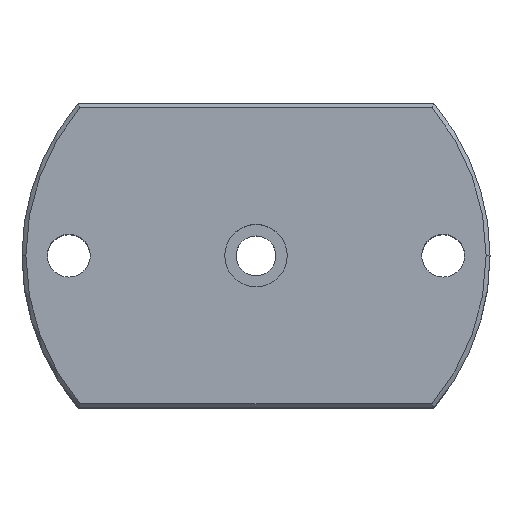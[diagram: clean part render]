
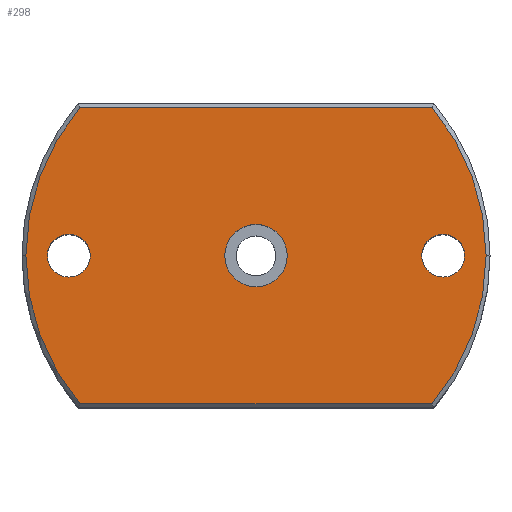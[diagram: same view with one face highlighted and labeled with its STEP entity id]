
A CAD part, top view. The second image highlights one B-rep face of the part: STEP entity #298.
In plain terms, the highlighted planar face has unit normal (0, 0, 1).
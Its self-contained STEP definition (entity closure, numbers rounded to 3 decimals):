
#81=CARTESIAN_POINT('Vertex',(42.5,0.,0.)) ;
#84=CARTESIAN_POINT('Axis2P3D Location',(48.,0.,0.)) ;
#88=CARTESIAN_POINT('Vertex',(53.5,0.,0.)) ;
#191=CARTESIAN_POINT('Axis2P3D Location',(48.,0.,0.)) ;
#203=CARTESIAN_POINT('Axis2P3D Location',(0.,0.,0.)) ;
#208=CARTESIAN_POINT('Axis2P3D Location',(0.,0.,0.)) ;
#212=CARTESIAN_POINT('Vertex',(45.133,-38.,0.)) ;
#214=CARTESIAN_POINT('Vertex',(59.,0.,0.)) ;
#217=CARTESIAN_POINT('Axis2P3D Location',(0.,0.,0.)) ;
#221=CARTESIAN_POINT('Vertex',(45.133,38.,0.)) ;
#224=CARTESIAN_POINT('Line Origine',(0.,38.,0.)) ;
#228=CARTESIAN_POINT('Vertex',(-45.133,38.,0.)) ;
#231=CARTESIAN_POINT('Axis2P3D Location',(0.,0.,0.)) ;
#235=CARTESIAN_POINT('Vertex',(-59.,0.,0.)) ;
#238=CARTESIAN_POINT('Axis2P3D Location',(0.,0.,0.)) ;
#242=CARTESIAN_POINT('Vertex',(-45.133,-38.,0.)) ;
#245=CARTESIAN_POINT('Line Origine',(0.,-38.,0.)) ;
#262=CARTESIAN_POINT('Axis2P3D Location',(-48.,0.,0.)) ;
#266=CARTESIAN_POINT('Vertex',(-42.5,0.,0.)) ;
#268=CARTESIAN_POINT('Vertex',(-53.5,0.,0.)) ;
#271=CARTESIAN_POINT('Axis2P3D Location',(-48.,0.,0.)) ;
#280=CARTESIAN_POINT('Axis2P3D Location',(0.,0.,0.)) ;
#284=CARTESIAN_POINT('Vertex',(8.,0.,0.)) ;
#286=CARTESIAN_POINT('Vertex',(-8.,0.,0.)) ;
#289=CARTESIAN_POINT('Axis2P3D Location',(0.,0.,0.)) ;
#85=DIRECTION('Axis2P3D Direction',(0.,-0.,1.)) ;
#192=DIRECTION('Axis2P3D Direction',(0.,-0.,1.)) ;
#204=DIRECTION('Axis2P3D Direction',(0.,0.,1.)) ;
#205=DIRECTION('Axis2P3D XDirection',(1.,0.,-0.)) ;
#209=DIRECTION('Axis2P3D Direction',(0.,0.,1.)) ;
#218=DIRECTION('Axis2P3D Direction',(0.,0.,1.)) ;
#225=DIRECTION('Vector Direction',(-1.,0.,0.)) ;
#232=DIRECTION('Axis2P3D Direction',(0.,0.,1.)) ;
#239=DIRECTION('Axis2P3D Direction',(0.,0.,1.)) ;
#246=DIRECTION('Vector Direction',(1.,0.,0.)) ;
#263=DIRECTION('Axis2P3D Direction',(0.,0.,1.)) ;
#272=DIRECTION('Axis2P3D Direction',(0.,0.,1.)) ;
#281=DIRECTION('Axis2P3D Direction',(0.,0.,1.)) ;
#290=DIRECTION('Axis2P3D Direction',(0.,0.,1.)) ;
#86=AXIS2_PLACEMENT_3D('Circle Axis2P3D',#84,#85,$) ;
#193=AXIS2_PLACEMENT_3D('Circle Axis2P3D',#191,#192,$) ;
#206=AXIS2_PLACEMENT_3D('Plane Axis2P3D',#203,#204,#205) ;
#210=AXIS2_PLACEMENT_3D('Circle Axis2P3D',#208,#209,$) ;
#219=AXIS2_PLACEMENT_3D('Circle Axis2P3D',#217,#218,$) ;
#233=AXIS2_PLACEMENT_3D('Circle Axis2P3D',#231,#232,$) ;
#240=AXIS2_PLACEMENT_3D('Circle Axis2P3D',#238,#239,$) ;
#264=AXIS2_PLACEMENT_3D('Circle Axis2P3D',#262,#263,$) ;
#273=AXIS2_PLACEMENT_3D('Circle Axis2P3D',#271,#272,$) ;
#282=AXIS2_PLACEMENT_3D('Circle Axis2P3D',#280,#281,$) ;
#291=AXIS2_PLACEMENT_3D('Circle Axis2P3D',#289,#290,$) ;
#251=ORIENTED_EDGE('',*,*,#216,.T.) ;
#252=ORIENTED_EDGE('',*,*,#223,.T.) ;
#253=ORIENTED_EDGE('',*,*,#230,.T.) ;
#254=ORIENTED_EDGE('',*,*,#237,.T.) ;
#255=ORIENTED_EDGE('',*,*,#244,.T.) ;
#256=ORIENTED_EDGE('',*,*,#249,.T.) ;
#259=ORIENTED_EDGE('',*,*,#195,.F.) ;
#260=ORIENTED_EDGE('',*,*,#90,.F.) ;
#277=ORIENTED_EDGE('',*,*,#270,.F.) ;
#278=ORIENTED_EDGE('',*,*,#275,.F.) ;
#295=ORIENTED_EDGE('',*,*,#288,.F.) ;
#296=ORIENTED_EDGE('',*,*,#293,.F.) ;
#261=FACE_BOUND('',#258,.T.) ;
#279=FACE_BOUND('',#276,.T.) ;
#297=FACE_BOUND('',#294,.T.) ;
#226=VECTOR('Line Direction',#225,1.) ;
#247=VECTOR('Line Direction',#246,1.) ;
#298=ADVANCED_FACE('Foro \X2\00D8\X0\11.0 (11)-1',(#257,#261,#279,#297),#207,.T.) ;
#87=CIRCLE('generated circle',#86,5.5) ;
#194=CIRCLE('generated circle',#193,5.5) ;
#211=CIRCLE('generated circle',#210,59.) ;
#220=CIRCLE('generated circle',#219,59.) ;
#234=CIRCLE('generated circle',#233,59.) ;
#241=CIRCLE('generated circle',#240,59.) ;
#265=CIRCLE('generated circle',#264,5.5) ;
#274=CIRCLE('generated circle',#273,5.5) ;
#283=CIRCLE('generated circle',#282,8.) ;
#292=CIRCLE('generated circle',#291,8.) ;
#90=EDGE_CURVE('',#82,#89,#87,.T.) ;
#195=EDGE_CURVE('',#89,#82,#194,.T.) ;
#216=EDGE_CURVE('',#213,#215,#211,.T.) ;
#223=EDGE_CURVE('',#215,#222,#220,.T.) ;
#230=EDGE_CURVE('',#222,#229,#227,.T.) ;
#237=EDGE_CURVE('',#229,#236,#234,.T.) ;
#244=EDGE_CURVE('',#236,#243,#241,.T.) ;
#249=EDGE_CURVE('',#243,#213,#248,.T.) ;
#270=EDGE_CURVE('',#267,#269,#265,.T.) ;
#275=EDGE_CURVE('',#269,#267,#274,.T.) ;
#288=EDGE_CURVE('',#285,#287,#283,.T.) ;
#293=EDGE_CURVE('',#287,#285,#292,.T.) ;
#250=EDGE_LOOP('',(#251,#252,#253,#254,#255,#256)) ;
#258=EDGE_LOOP('',(#259,#260)) ;
#276=EDGE_LOOP('',(#277,#278)) ;
#294=EDGE_LOOP('',(#295,#296)) ;
#257=FACE_OUTER_BOUND('',#250,.T.) ;
#227=LINE('Line',#224,#226) ;
#248=LINE('Line',#245,#247) ;
#207=PLANE('Plane',#206) ;
#82=VERTEX_POINT('',#81) ;
#89=VERTEX_POINT('',#88) ;
#213=VERTEX_POINT('',#212) ;
#215=VERTEX_POINT('',#214) ;
#222=VERTEX_POINT('',#221) ;
#229=VERTEX_POINT('',#228) ;
#236=VERTEX_POINT('',#235) ;
#243=VERTEX_POINT('',#242) ;
#267=VERTEX_POINT('',#266) ;
#269=VERTEX_POINT('',#268) ;
#285=VERTEX_POINT('',#284) ;
#287=VERTEX_POINT('',#286) ;
